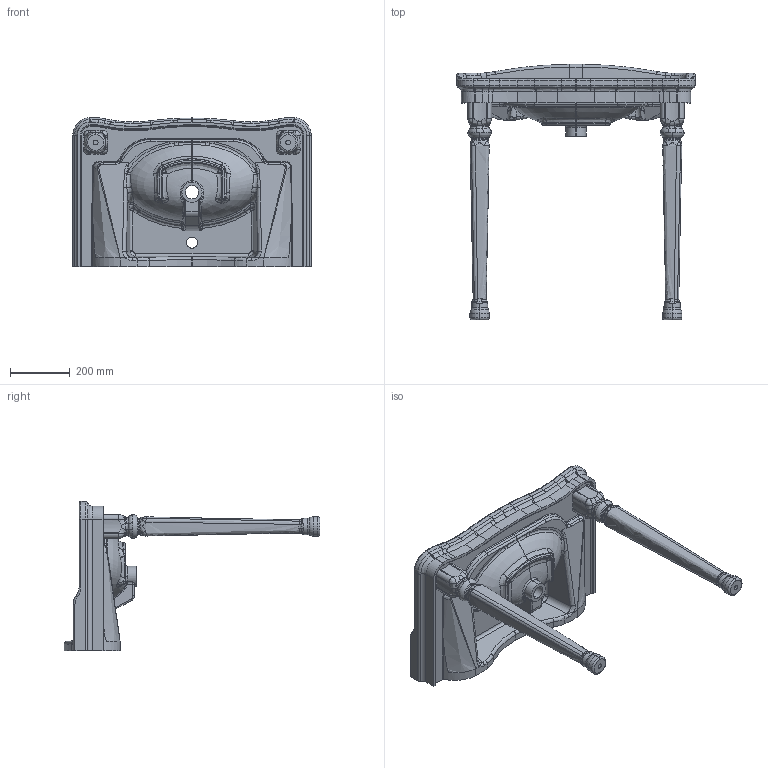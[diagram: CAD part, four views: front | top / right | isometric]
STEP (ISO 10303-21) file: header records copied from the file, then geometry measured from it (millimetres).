
FILE_DESCRIPTION (( 'STEP AP203' ), '1' );
FILE_NAME ('AN080+KL270.STEP', '2022-04-12T06:42:56', ( '' ), ( '' ), 'SwSTEP 2.0', 'SolidWorks 2021', '' );
FILE_SCHEMA (( 'CONFIG_CONTROL_DESIGN' ));
Length unit declared in the file: millimetre
Products named in the file (1): AN080+KL270
Bounding box: 798.49 x 856.42 x 499.41 mm (x, y, z)
Volume: 26208693.5 mm3; surface area: 1619292.2 mm2
Topology: 4 solids, 4 shells, 971 faces, 2343 edges, 1356 vertices
Faces by surface type: bspline 441, cylinder 204, torus 204, plane 59, cone 38, sphere 25
Entity records: 124315 total; most frequent: CARTESIAN_POINT 104974, ORIENTED_EDGE 4630, DIRECTION 3368, EDGE_CURVE 2315, AXIS2_PLACEMENT_3D 1528, VERTEX_POINT 1356, CIRCLE 997, EDGE_LOOP 981
